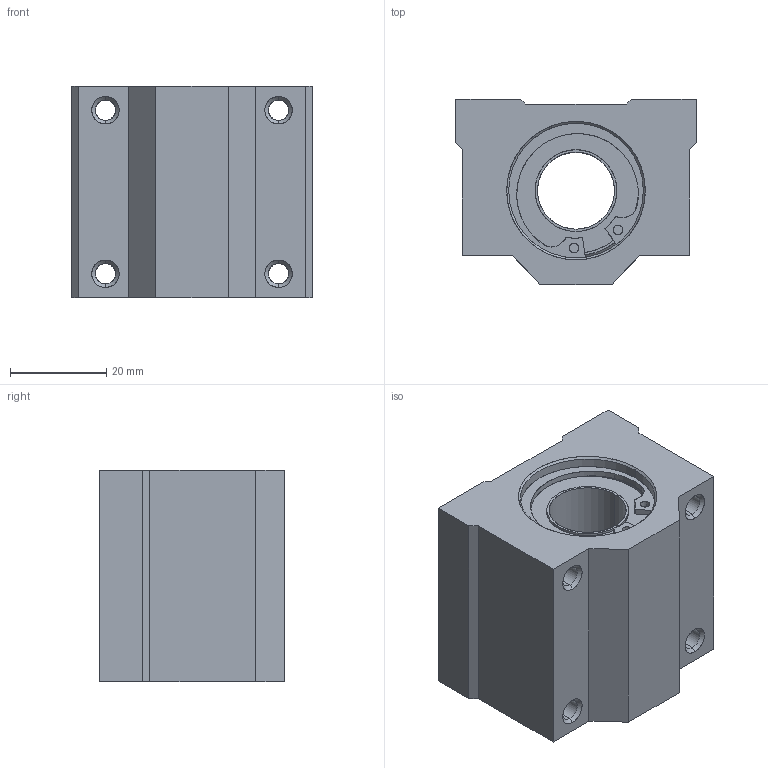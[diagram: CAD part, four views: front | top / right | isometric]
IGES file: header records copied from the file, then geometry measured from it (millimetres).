
Start section: SolidWorks IGES file using analytic representation for surfaces
Global section: file name: D:\SOLIDWORKS PROEKTI\freelance cnc cat\VTORA SERIJA\SC-UU\SC16UU.IGS; native system: SolidWorks 2016; preprocessor: SolidWorks 2016; author: User; date: 170805.191227; units: millimetre
Bounding box: 50 x 38.5 x 44 mm (x, y, z)
Surface area: 22665.3 mm2 (no closed solid volume)
Topology: 0 solids, 0 shells, 326 faces, 8281 edges, 9977 vertices
Faces by surface type: bspline 209, revolution 117
